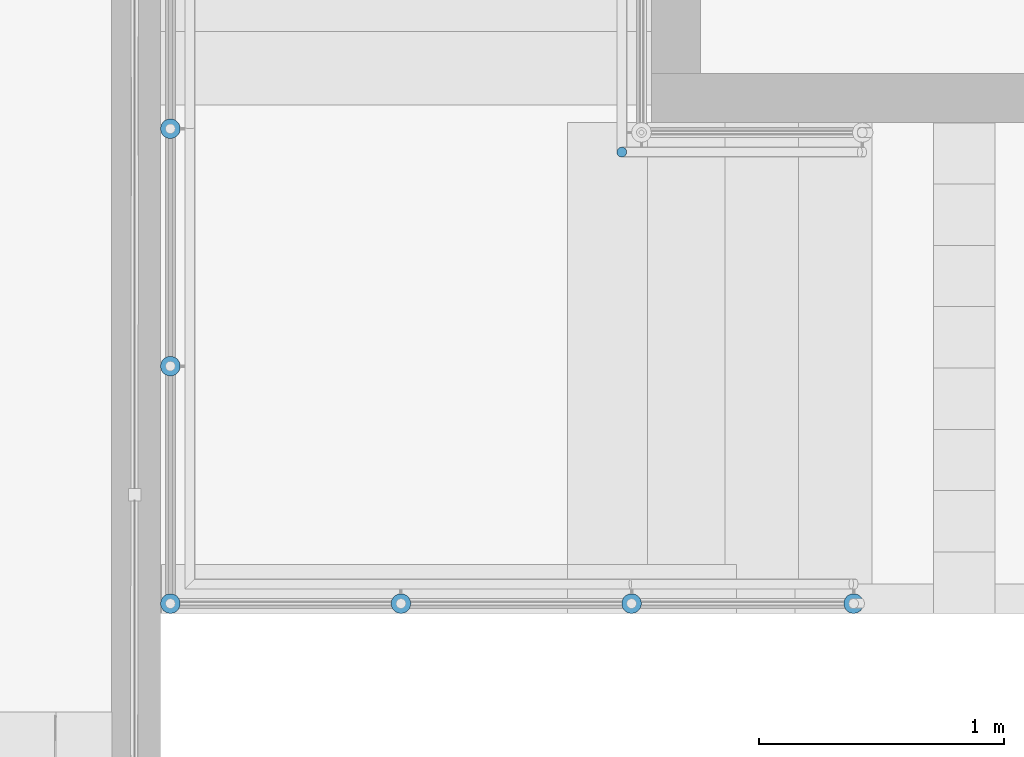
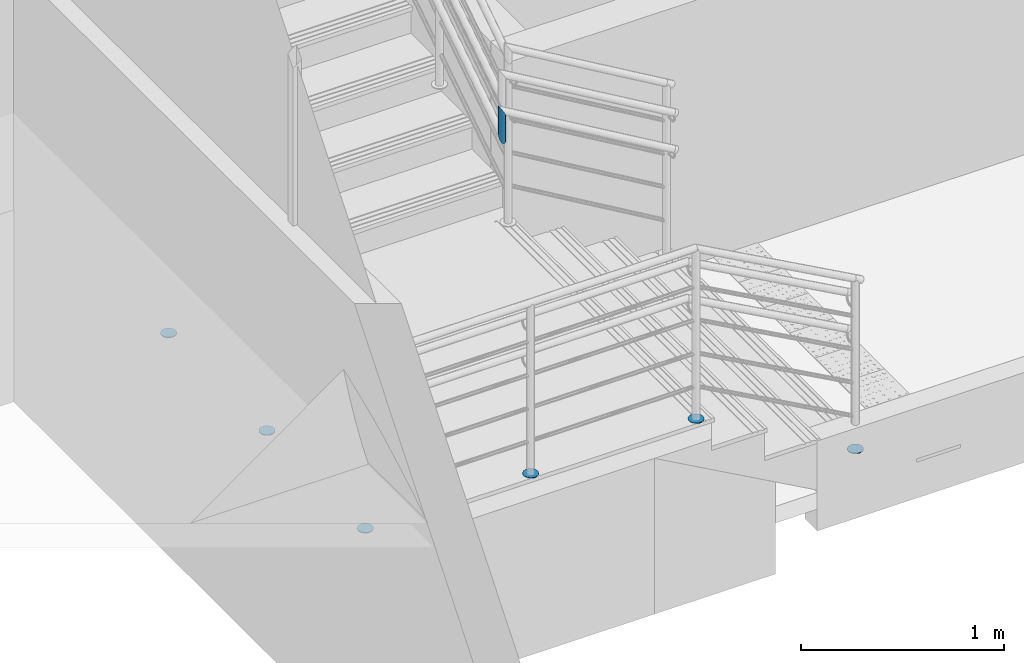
# One storey, part 123 of 237: 7 building element parts, 2 elements without a shape of their own.
"""IFC2X3 building model written with IfcOpenShell, lengths in millimetres."""

from ifc_helpers import new_model, entity, si_unit, converted_unit, derived_unit, money_unit, direction, frame, origin_with_axes, place, context, subcontext, project, spatial, faceted_brep, material, type_object, element, aggregate, save


model = new_model("IFC2X3")

# Units and contexts
model_context = context("Model", 3, precision=0.01, world=origin_with_axes(), true_north=direction((0.0, 1.0)))
body_context = subcontext(model_context, "Body", "Model", "MODEL_VIEW")
ifc_project = project(units=[si_unit("LENGTHUNIT", "METRE", prefix="MILLI"), si_unit("AREAUNIT", "SQUARE_METRE"), si_unit("VOLUMEUNIT", "CUBIC_METRE"), converted_unit("PLANEANGLEUNIT", "DEGREE", entity("IfcPlaneAngleMeasure", 0.0174532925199), si_unit("PLANEANGLEUNIT", "RADIAN"), dimensions=[0, 0, 0, 0, 0, 0, 0]), money_unit("USD"), converted_unit("TIMEUNIT", "Year", entity("IfcTimeMeasure", 31556926.0), si_unit("TIMEUNIT", "SECOND"), dimensions=[0, 0, 1, 0, 0, 0, 0]), si_unit("MASSUNIT", "GRAM", prefix="KILO"), si_unit("THERMODYNAMICTEMPERATUREUNIT", "DEGREE_CELSIUS"), si_unit("LUMINOUSINTENSITYUNIT", "LUMEN"), si_unit("ENERGYUNIT", "JOULE", prefix="MEGA"), derived_unit("THERMALCONDUCTANCEUNIT", [(si_unit("POWERUNIT", "WATT"), 1), (si_unit("LENGTHUNIT", "METRE"), -1), (si_unit("THERMODYNAMICTEMPERATUREUNIT", "KELVIN"), -1)]), derived_unit("SPECIFICHEATCAPACITYUNIT", [(si_unit("ENERGYUNIT", "JOULE"), 1), (si_unit("MASSUNIT", "GRAM", prefix="KILO"), -1), (si_unit("THERMODYNAMICTEMPERATUREUNIT", "KELVIN"), -1)]), derived_unit("MASSDENSITYUNIT", [(si_unit("MASSUNIT", "GRAM", prefix="KILO"), 1), (si_unit("VOLUMEUNIT", "CUBIC_METRE"), -1)])], contexts=[model_context])

# Site, building, storey
site_placement = place(None, origin_with_axes())
site = spatial("IfcSite", under=ifc_project, at=site_placement, Name="Local", CompositionType="ELEMENT")
building_placement = place(site_placement, origin_with_axes())
building = spatial("IfcBuilding", under=site, at=building_placement, Name="Construção", CompositionType="ELEMENT")
storey_placement = place(building_placement, origin_with_axes())
storey = spatial("IfcBuildingStorey", under=building, at=storey_placement, Name="Pavimento Térreo", CompositionType="ELEMENT", Elevation=0.0)

# Railing, building element parts
railing_type = type_object("IfcRailingType", Name="Tipo de Guarda-Corpo", PredefinedType="NOTDEFINED")
railing_1_placement = place(storey_placement, frame((77071.0413397, 23732.4143775, -4865.39060156), z_axis=(0.0, 0.0, 1.0), x_axis=(1.0, 0.0, 0.0)))
railing_1 = element("IfcRailing", 1, at=railing_1_placement, inside=storey, type_object=railing_type, Name="Guarda-Corpo - 001", PredefinedType="NOTDEFINED")
ifc_material_1 = material(Name="Alumínio")
building_element_part_1_placement = place(railing_1_placement, origin_with_axes())
building_element_part_1 = element("IfcBuildingElementPart", 2, at=building_element_part_1_placement, material=ifc_material_1, Name="Alumínio", context=body_context, shape_type="Brep", body=[
    faceted_brep([(1737.91815812, -1424.63306065, 520.0), (1744.86408523, -1424.02537077, 520.0), (1744.86408523, -1424.02537077, 525.0), (1737.91815812, -1424.63306065, 525.0), (1730.97223102, -1424.02537077, 520.0), (1724.23735239, -1422.22076548, 520.0), (1717.91815812, -1419.2740768, 520.0), (1712.20665374, -1415.27483837, 520.0), (1707.2763804, -1410.34456503, 520.0), (1703.27714197, -1404.63306065, 520.0), (1700.33045329, -1398.31386638, 520.0), (1698.525848, -1391.57898775, 520.0), (1697.91815812, -1384.63306065, 520.0), (1698.525848, -1377.68713354, 520.0), (1700.33045329, -1370.95225491, 520.0), (1703.27714197, -1364.63306065, 520.0), (1707.2763804, -1358.92155626, 520.0), (1712.20665374, -1353.99128292, 520.0), (1717.91815812, -1349.99204449, 520.0), (1724.23735239, -1347.04535581, 520.0), (1730.97223102, -1345.24075053, 520.0), (1737.91815812, -1344.63306065, 520.0), (1744.86408523, -1345.24075053, 520.0), (1751.59896386, -1347.04535581, 520.0), (1757.91815812, -1349.99204449, 520.0), (1763.62966251, -1353.99128292, 520.0), (1768.55993585, -1358.92155626, 520.0), (1772.55917428, -1364.63306065, 520.0), (1775.50586296, -1370.95225491, 520.0), (1777.31046825, -1377.68713354, 520.0), (1777.91815812, -1384.63306065, 520.0), (1777.31046825, -1391.57898775, 520.0), (1775.50586296, -1398.31386638, 520.0), (1772.55917428, -1404.63306065, 520.0), (1768.55993585, -1410.34456503, 520.0), (1763.62966251, -1415.27483837, 520.0), (1757.91815812, -1419.2740768, 520.0), (1751.59896386, -1422.22076548, 520.0), (1751.59896386, -1422.22076548, 525.0), (1757.91815812, -1419.2740768, 525.0), (1763.62966251, -1415.27483837, 525.0), (1768.55993585, -1410.34456503, 525.0), (1772.55917428, -1404.63306065, 525.0), (1775.50586296, -1398.31386638, 525.0), (1777.31046825, -1391.57898775, 525.0), (1777.91815812, -1384.63306065, 525.0), (1777.31046825, -1377.68713354, 525.0), (1775.50586296, -1370.95225491, 525.0), (1772.55917428, -1364.63306065, 525.0), (1768.55993585, -1358.92155626, 525.0), (1763.62966251, -1353.99128292, 525.0), (1757.91815812, -1349.99204449, 525.0), (1751.59896386, -1347.04535581, 525.0), (1744.86408523, -1345.24075053, 525.0), (1737.91815812, -1344.63306065, 525.0), (1730.97223102, -1345.24075053, 525.0), (1724.23735239, -1347.04535581, 525.0), (1717.91815812, -1349.99204449, 525.0), (1712.20665374, -1353.99128292, 525.0), (1707.2763804, -1358.92155626, 525.0), (1703.27714197, -1364.63306065, 525.0), (1700.33045329, -1370.95225491, 525.0), (1698.525848, -1377.68713354, 525.0), (1697.91815812, -1384.63306065, 525.0), (1698.525848, -1391.57898775, 525.0), (1700.33045329, -1398.31386638, 525.0), (1703.27714197, -1404.63306065, 525.0), (1707.2763804, -1410.34456503, 525.0), (1712.20665374, -1415.27483837, 525.0), (1717.91815812, -1419.2740768, 525.0), (1724.23735239, -1422.22076548, 525.0), (1730.97223102, -1424.02537077, 525.0)], [[[0, 1, 2, 3]], [[0, 4, 5, 6, 7, 8, 9, 10, 11, 12, 13, 14, 15, 16, 17, 18, 19, 20, 21, 22, 23, 24, 25, 26, 27, 28, 29, 30, 31, 32, 33, 34, 35, 36, 37, 1]], [[1, 37, 38, 2]], [[3, 2, 38, 39, 40, 41, 42, 43, 44, 45, 46, 47, 48, 49, 50, 51, 52, 53, 54, 55, 56, 57, 58, 59, 60, 61, 62, 63, 64, 65, 66, 67, 68, 69, 70, 71]], [[4, 0, 3, 71]], [[5, 4, 71, 70]], [[6, 5, 70, 69]], [[7, 6, 69, 68]], [[8, 7, 68, 67]], [[9, 8, 67, 66]], [[10, 9, 66, 65]], [[11, 10, 65, 64]], [[12, 11, 64, 63]], [[13, 12, 63, 62]], [[14, 13, 62, 61]], [[15, 14, 61, 60]], [[16, 15, 60, 59]], [[17, 16, 59, 58]], [[18, 17, 58, 57]], [[19, 18, 57, 56]], [[20, 19, 56, 55]], [[21, 20, 55, 54]], [[22, 21, 54, 53]], [[23, 22, 53, 52]], [[24, 23, 52, 51]], [[25, 24, 51, 50]], [[26, 25, 50, 49]], [[27, 26, 49, 48]], [[28, 27, 48, 47]], [[29, 28, 47, 46]], [[30, 29, 46, 45]], [[31, 30, 45, 44]], [[32, 31, 44, 43]], [[33, 32, 43, 42]], [[34, 33, 42, 41]], [[35, 34, 41, 40]], [[36, 35, 40, 39]], [[37, 36, 39, 38]]]),
])
building_element_part_2_placement = place(railing_1_placement, origin_with_axes())
building_element_part_2 = element("IfcBuildingElementPart", 3, at=building_element_part_2_placement, material=ifc_material_1, Name="Alumínio", context=body_context, shape_type="Brep", body=[
    faceted_brep([(1737.91815598, -3359.99526689, 520.0), (1744.86408308, -3359.38757702, 520.0), (1744.86408308, -3359.38757702, 525.0), (1737.91815598, -3359.99526689, 525.0), (1730.97222887, -3359.387577, 520.0), (1724.23735024, -3357.58297171, 520.0), (1717.91815598, -3354.63628302, 520.0), (1712.2066516, -3350.63704459, 520.0), (1707.27637827, -3345.70677124, 520.0), (1703.27713985, -3339.99526685, 520.0), (1700.33045117, -3333.67607258, 520.0), (1698.52584589, -3326.94119395, 520.0), (1697.91815602, -3319.99526685, 520.0), (1698.52584591, -3313.04933974, 520.0), (1700.3304512, -3306.31446112, 520.0), (1703.27713989, -3299.99526685, 520.0), (1707.27637832, -3294.28376247, 520.0), (1712.20665166, -3289.35348914, 520.0), (1717.91815606, -3285.35425072, 520.0), (1724.23735033, -3282.40756204, 520.0), (1730.97222895, -3280.60295676, 520.0), (1737.91815606, -3279.99526689, 520.0), (1744.86408317, -3280.60295678, 520.0), (1751.59896179, -3282.40756207, 520.0), (1757.91815606, -3285.35425076, 520.0), (1763.62966044, -3289.35348919, 520.0), (1768.55993377, -3294.28376254, 520.0), (1772.55917219, -3299.99526693, 520.0), (1775.50586087, -3306.3144612, 520.0), (1777.31046615, -3313.04933983, 520.0), (1777.91815602, -3319.99526693, 520.0), (1777.31046613, -3326.94119404, 520.0), (1775.50586084, -3333.67607266, 520.0), (1772.55917215, -3339.99526693, 520.0), (1768.55993372, -3345.70677131, 520.0), (1763.62966037, -3350.63704464, 520.0), (1757.91815598, -3354.63628306, 520.0), (1751.59896171, -3357.58297174, 520.0), (1751.59896171, -3357.58297174, 525.0), (1757.91815598, -3354.63628306, 525.0), (1763.62966037, -3350.63704464, 525.0), (1768.55993372, -3345.70677131, 525.0), (1772.55917215, -3339.99526693, 525.0), (1775.50586084, -3333.67607266, 525.0), (1777.31046613, -3326.94119404, 525.0), (1777.91815602, -3319.99526693, 525.0), (1777.31046615, -3313.04933983, 525.0), (1775.50586087, -3306.3144612, 525.0), (1772.55917219, -3299.99526693, 525.0), (1768.55993377, -3294.28376254, 525.0), (1763.62966044, -3289.35348919, 525.0), (1757.91815606, -3285.35425076, 525.0), (1751.59896179, -3282.40756207, 525.0), (1744.86408317, -3280.60295678, 525.0), (1737.91815606, -3279.99526689, 525.0), (1730.97222895, -3280.60295676, 525.0), (1724.23735033, -3282.40756204, 525.0), (1717.91815606, -3285.35425072, 525.0), (1712.20665166, -3289.35348914, 525.0), (1707.27637832, -3294.28376247, 525.0), (1703.27713989, -3299.99526685, 525.0), (1700.3304512, -3306.31446112, 525.0), (1698.52584591, -3313.04933974, 525.0), (1697.91815602, -3319.99526685, 525.0), (1698.52584589, -3326.94119395, 525.0), (1700.33045117, -3333.67607258, 525.0), (1703.27713985, -3339.99526685, 525.0), (1707.27637827, -3345.70677124, 525.0), (1712.2066516, -3350.63704459, 525.0), (1717.91815598, -3354.63628302, 525.0), (1724.23735024, -3357.58297171, 525.0), (1730.97222887, -3359.387577, 525.0)], [[[0, 1, 2, 3]], [[0, 4, 5, 6, 7, 8, 9, 10, 11, 12, 13, 14, 15, 16, 17, 18, 19, 20, 21, 22, 23, 24, 25, 26, 27, 28, 29, 30, 31, 32, 33, 34, 35, 36, 37, 1]], [[1, 37, 38, 2]], [[3, 2, 38, 39, 40, 41, 42, 43, 44, 45, 46, 47, 48, 49, 50, 51, 52, 53, 54, 55, 56, 57, 58, 59, 60, 61, 62, 63, 64, 65, 66, 67, 68, 69, 70, 71]], [[4, 0, 3, 71]], [[5, 4, 71, 70]], [[6, 5, 70, 69]], [[7, 6, 69, 68]], [[8, 7, 68, 67]], [[9, 8, 67, 66]], [[10, 9, 66, 65]], [[11, 10, 65, 64]], [[12, 11, 64, 63]], [[13, 12, 63, 62]], [[14, 13, 62, 61]], [[15, 14, 61, 60]], [[16, 15, 60, 59]], [[17, 16, 59, 58]], [[18, 17, 58, 57]], [[19, 18, 57, 56]], [[20, 19, 56, 55]], [[21, 20, 55, 54]], [[22, 21, 54, 53]], [[23, 22, 53, 52]], [[24, 23, 52, 51]], [[25, 24, 51, 50]], [[26, 25, 50, 49]], [[27, 26, 49, 48]], [[28, 27, 48, 47]], [[29, 28, 47, 46]], [[30, 29, 46, 45]], [[31, 30, 45, 44]], [[32, 31, 44, 43]], [[33, 32, 43, 42]], [[34, 33, 42, 41]], [[35, 34, 41, 40]], [[36, 35, 40, 39]], [[37, 36, 39, 38]]]),
])
building_element_part_3_placement = place(railing_1_placement, origin_with_axes())
building_element_part_3 = element("IfcBuildingElementPart", 4, at=building_element_part_3_placement, material=ifc_material_1, Name="Alumínio", context=body_context, shape_type="Brep", body=[
    faceted_brep([(3657.45318149, -3319.99526689, 520.0), (3656.84549161, -3313.04933978, 520.0), (3656.84549161, -3313.04933978, 525.0), (3657.45318149, -3319.99526689, 525.0), (3656.84549161, -3326.941194, 520.0), (3655.04088632, -3333.67607262, 520.0), (3652.09419764, -3339.99526689, 520.0), (3648.09495921, -3345.70677128, 520.0), (3643.16468588, -3350.63704462, 520.0), (3637.45318149, -3354.63628304, 520.0), (3631.13398722, -3357.58297172, 520.0), (3624.3991086, -3359.38757701, 520.0), (3617.45318149, -3359.99526689, 520.0), (3610.50725438, -3359.38757701, 520.0), (3603.77237576, -3357.58297172, 520.0), (3597.45318149, -3354.63628304, 520.0), (3591.7416771, -3350.63704462, 520.0), (3586.81140377, -3345.70677128, 520.0), (3582.81216534, -3339.99526689, 520.0), (3579.86547666, -3333.67607262, 520.0), (3578.06087137, -3326.941194, 520.0), (3577.45318149, -3319.99526689, 520.0), (3578.06087137, -3313.04933978, 520.0), (3579.86547666, -3306.31446116, 520.0), (3582.81216534, -3299.99526689, 520.0), (3586.81140377, -3294.2837625, 520.0), (3591.7416771, -3289.35348917, 520.0), (3597.45318149, -3285.35425074, 520.0), (3603.77237576, -3282.40756206, 520.0), (3610.50725438, -3280.60295677, 520.0), (3617.45318149, -3279.99526689, 520.0), (3624.3991086, -3280.60295677, 520.0), (3631.13398722, -3282.40756206, 520.0), (3637.45318149, -3285.35425074, 520.0), (3643.16468588, -3289.35348917, 520.0), (3648.09495921, -3294.2837625, 520.0), (3652.09419764, -3299.99526689, 520.0), (3655.04088632, -3306.31446116, 520.0), (3655.04088632, -3306.31446116, 525.0), (3652.09419764, -3299.99526689, 525.0), (3648.09495921, -3294.2837625, 525.0), (3643.16468588, -3289.35348917, 525.0), (3637.45318149, -3285.35425074, 525.0), (3631.13398722, -3282.40756206, 525.0), (3624.3991086, -3280.60295677, 525.0), (3617.45318149, -3279.99526689, 525.0), (3610.50725438, -3280.60295677, 525.0), (3603.77237576, -3282.40756206, 525.0), (3597.45318149, -3285.35425074, 525.0), (3591.7416771, -3289.35348917, 525.0), (3586.81140377, -3294.2837625, 525.0), (3582.81216534, -3299.99526689, 525.0), (3579.86547666, -3306.31446116, 525.0), (3578.06087137, -3313.04933978, 525.0), (3577.45318149, -3319.99526689, 525.0), (3578.06087137, -3326.941194, 525.0), (3579.86547666, -3333.67607262, 525.0), (3582.81216534, -3339.99526689, 525.0), (3586.81140377, -3345.70677128, 525.0), (3591.7416771, -3350.63704462, 525.0), (3597.45318149, -3354.63628304, 525.0), (3603.77237576, -3357.58297172, 525.0), (3610.50725438, -3359.38757701, 525.0), (3617.45318149, -3359.99526689, 525.0), (3624.3991086, -3359.38757701, 525.0), (3631.13398722, -3357.58297172, 525.0), (3637.45318149, -3354.63628304, 525.0), (3643.16468588, -3350.63704462, 525.0), (3648.09495921, -3345.70677128, 525.0), (3652.09419764, -3339.99526689, 525.0), (3655.04088632, -3333.67607262, 525.0), (3656.84549161, -3326.941194, 525.0)], [[[0, 1, 2, 3]], [[0, 4, 5, 6, 7, 8, 9, 10, 11, 12, 13, 14, 15, 16, 17, 18, 19, 20, 21, 22, 23, 24, 25, 26, 27, 28, 29, 30, 31, 32, 33, 34, 35, 36, 37, 1]], [[1, 37, 38, 2]], [[3, 2, 38, 39, 40, 41, 42, 43, 44, 45, 46, 47, 48, 49, 50, 51, 52, 53, 54, 55, 56, 57, 58, 59, 60, 61, 62, 63, 64, 65, 66, 67, 68, 69, 70, 71]], [[4, 0, 3, 71]], [[5, 4, 71, 70]], [[6, 5, 70, 69]], [[7, 6, 69, 68]], [[8, 7, 68, 67]], [[9, 8, 67, 66]], [[10, 9, 66, 65]], [[11, 10, 65, 64]], [[12, 11, 64, 63]], [[13, 12, 63, 62]], [[14, 13, 62, 61]], [[15, 14, 61, 60]], [[16, 15, 60, 59]], [[17, 16, 59, 58]], [[18, 17, 58, 57]], [[19, 18, 57, 56]], [[20, 19, 56, 55]], [[21, 20, 55, 54]], [[22, 21, 54, 53]], [[23, 22, 53, 52]], [[24, 23, 52, 51]], [[25, 24, 51, 50]], [[26, 25, 50, 49]], [[27, 26, 49, 48]], [[28, 27, 48, 47]], [[29, 28, 47, 46]], [[30, 29, 46, 45]], [[31, 30, 45, 44]], [[32, 31, 44, 43]], [[33, 32, 43, 42]], [[34, 33, 42, 41]], [[35, 34, 41, 40]], [[36, 35, 40, 39]], [[37, 36, 39, 38]]]),
])
building_element_part_4_placement = place(railing_1_placement, origin_with_axes())
building_element_part_4 = element("IfcBuildingElementPart", 5, at=building_element_part_4_placement, material=ifc_material_1, Name="Alumínio", context=body_context, shape_type="Brep", body=[
    faceted_brep([(4562.4930304, -3319.99526689, 22.009653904), (4561.88534052, -3313.04933978, 22.009653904), (4561.88534052, -3313.04933978, 27.009653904), (4562.4930304, -3319.99526689, 27.009653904), (4561.88534052, -3326.941194, 22.009653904), (4560.08073523, -3333.67607262, 22.009653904), (4557.13404655, -3339.99526689, 22.009653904), (4553.13480813, -3345.70677128, 22.009653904), (4548.20453479, -3350.63704462, 22.009653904), (4542.4930304, -3354.63628304, 22.009653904), (4536.17383613, -3357.58297172, 22.009653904), (4529.43895751, -3359.38757701, 22.009653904), (4522.4930304, -3359.99526689, 22.009653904), (4515.54710329, -3359.38757701, 22.009653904), (4508.81222467, -3357.58297172, 22.009653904), (4502.4930304, -3354.63628304, 22.009653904), (4496.78152601, -3350.63704462, 22.009653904), (4491.85125268, -3345.70677128, 22.009653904), (4487.85201425, -3339.99526689, 22.009653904), (4484.90532557, -3333.67607262, 22.009653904), (4483.10072028, -3326.941194, 22.009653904), (4482.4930304, -3319.99526689, 22.009653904), (4483.10072028, -3313.04933978, 22.009653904), (4484.90532557, -3306.31446116, 22.009653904), (4487.85201425, -3299.99526689, 22.009653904), (4491.85125268, -3294.2837625, 22.009653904), (4496.78152601, -3289.35348917, 22.009653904), (4502.4930304, -3285.35425074, 22.009653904), (4508.81222467, -3282.40756206, 22.009653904), (4515.54710329, -3280.60295677, 22.009653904), (4522.4930304, -3279.99526689, 22.009653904), (4529.43895751, -3280.60295677, 22.009653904), (4536.17383613, -3282.40756206, 22.009653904), (4542.4930304, -3285.35425074, 22.009653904), (4548.20453479, -3289.35348917, 22.009653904), (4553.13480813, -3294.2837625, 22.009653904), (4557.13404655, -3299.99526689, 22.009653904), (4560.08073523, -3306.31446116, 22.009653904), (4560.08073523, -3306.31446116, 27.009653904), (4557.13404655, -3299.99526689, 27.009653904), (4553.13480813, -3294.2837625, 27.009653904), (4548.20453479, -3289.35348917, 27.009653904), (4542.4930304, -3285.35425074, 27.009653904), (4536.17383613, -3282.40756206, 27.009653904), (4529.43895751, -3280.60295677, 27.009653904), (4522.4930304, -3279.99526689, 27.009653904), (4515.54710329, -3280.60295677, 27.009653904), (4508.81222467, -3282.40756206, 27.009653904), (4502.4930304, -3285.35425074, 27.009653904), (4496.78152601, -3289.35348917, 27.009653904), (4491.85125268, -3294.2837625, 27.009653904), (4487.85201425, -3299.99526689, 27.009653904), (4484.90532557, -3306.31446116, 27.009653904), (4483.10072028, -3313.04933978, 27.009653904), (4482.4930304, -3319.99526689, 27.009653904), (4483.10072028, -3326.941194, 27.009653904), (4484.90532557, -3333.67607262, 27.009653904), (4487.85201425, -3339.99526689, 27.009653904), (4491.85125268, -3345.70677128, 27.009653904), (4496.78152601, -3350.63704462, 27.009653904), (4502.4930304, -3354.63628304, 27.009653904), (4508.81222467, -3357.58297172, 27.009653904), (4515.54710329, -3359.38757701, 27.009653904), (4522.4930304, -3359.99526689, 27.009653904), (4529.43895751, -3359.38757701, 27.009653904), (4536.17383613, -3357.58297172, 27.009653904), (4542.4930304, -3354.63628304, 27.009653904), (4548.20453479, -3350.63704462, 27.009653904), (4553.13480813, -3345.70677128, 27.009653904), (4557.13404655, -3339.99526689, 27.009653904), (4560.08073523, -3333.67607262, 27.009653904), (4561.88534052, -3326.941194, 27.009653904)], [[[0, 1, 2, 3]], [[0, 4, 5, 6, 7, 8, 9, 10, 11, 12, 13, 14, 15, 16, 17, 18, 19, 20, 21, 22, 23, 24, 25, 26, 27, 28, 29, 30, 31, 32, 33, 34, 35, 36, 37, 1]], [[1, 37, 38, 2]], [[3, 2, 38, 39, 40, 41, 42, 43, 44, 45, 46, 47, 48, 49, 50, 51, 52, 53, 54, 55, 56, 57, 58, 59, 60, 61, 62, 63, 64, 65, 66, 67, 68, 69, 70, 71]], [[4, 0, 3, 71]], [[5, 4, 71, 70]], [[6, 5, 70, 69]], [[7, 6, 69, 68]], [[8, 7, 68, 67]], [[9, 8, 67, 66]], [[10, 9, 66, 65]], [[11, 10, 65, 64]], [[12, 11, 64, 63]], [[13, 12, 63, 62]], [[14, 13, 62, 61]], [[15, 14, 61, 60]], [[16, 15, 60, 59]], [[17, 16, 59, 58]], [[18, 17, 58, 57]], [[19, 18, 57, 56]], [[20, 19, 56, 55]], [[21, 20, 55, 54]], [[22, 21, 54, 53]], [[23, 22, 53, 52]], [[24, 23, 52, 51]], [[25, 24, 51, 50]], [[26, 25, 50, 49]], [[27, 26, 49, 48]], [[28, 27, 48, 47]], [[29, 28, 47, 46]], [[30, 29, 46, 45]], [[31, 30, 45, 44]], [[32, 31, 44, 43]], [[33, 32, 43, 42]], [[34, 33, 42, 41]], [[35, 34, 41, 40]], [[36, 35, 40, 39]], [[37, 36, 39, 38]]]),
])
building_element_part_5_placement = place(railing_1_placement, origin_with_axes())
building_element_part_5 = element("IfcBuildingElementPart", 6, at=building_element_part_5_placement, material=ifc_material_1, Name="Alumínio", context=body_context, shape_type="Brep", body=[
    faceted_brep([(1737.91815703, -2392.31416378, 520.0), (1744.86408414, -2391.70647391, 520.0), (1744.86408414, -2391.70647391, 525.0), (1737.91815703, -2392.31416378, 525.0), (1730.97222992, -2391.70647389, 520.0), (1724.2373513, -2389.9018686, 520.0), (1717.91815703, -2386.95517991, 520.0), (1712.20665265, -2382.95594148, 520.0), (1707.27637932, -2378.02566813, 520.0), (1703.2771409, -2372.31416374, 520.0), (1700.33045223, -2365.99496947, 520.0), (1698.52584694, -2359.26009084, 520.0), (1697.91815707, -2352.31416374, 520.0), (1698.52584696, -2345.36823663, 520.0), (1700.33045226, -2338.63335801, 520.0), (1703.27714094, -2332.31416374, 520.0), (1707.27637937, -2326.60265936, 520.0), (1712.20665272, -2321.67238603, 520.0), (1717.91815711, -2317.67314761, 520.0), (1724.23735138, -2314.72645893, 520.0), (1730.97223001, -2312.92185365, 520.0), (1737.91815712, -2312.31416378, 520.0), (1744.86408422, -2312.92185367, 520.0), (1751.59896285, -2314.72645896, 520.0), (1757.91815711, -2317.67314765, 520.0), (1763.62966149, -2321.67238608, 520.0), (1768.55993482, -2326.60265943, 520.0), (1772.55917324, -2332.31416382, 520.0), (1775.50586192, -2338.63335809, 520.0), (1777.3104672, -2345.36823672, 520.0), (1777.91815707, -2352.31416382, 520.0), (1777.31046718, -2359.26009093, 520.0), (1775.50586189, -2365.99496955, 520.0), (1772.5591732, -2372.31416382, 520.0), (1768.55993477, -2378.0256682, 520.0), (1763.62966143, -2382.95594153, 520.0), (1757.91815703, -2386.95517995, 520.0), (1751.59896276, -2389.90186863, 520.0), (1751.59896276, -2389.90186863, 525.0), (1757.91815703, -2386.95517995, 525.0), (1763.62966143, -2382.95594153, 525.0), (1768.55993477, -2378.0256682, 525.0), (1772.5591732, -2372.31416382, 525.0), (1775.50586189, -2365.99496955, 525.0), (1777.31046718, -2359.26009093, 525.0), (1777.91815707, -2352.31416382, 525.0), (1777.3104672, -2345.36823672, 525.0), (1775.50586192, -2338.63335809, 525.0), (1772.55917324, -2332.31416382, 525.0), (1768.55993482, -2326.60265943, 525.0), (1763.62966149, -2321.67238608, 525.0), (1757.91815711, -2317.67314765, 525.0), (1751.59896285, -2314.72645896, 525.0), (1744.86408422, -2312.92185367, 525.0), (1737.91815712, -2312.31416378, 525.0), (1730.97223001, -2312.92185365, 525.0), (1724.23735138, -2314.72645893, 525.0), (1717.91815711, -2317.67314761, 525.0), (1712.20665272, -2321.67238603, 525.0), (1707.27637937, -2326.60265936, 525.0), (1703.27714094, -2332.31416374, 525.0), (1700.33045226, -2338.63335801, 525.0), (1698.52584696, -2345.36823663, 525.0), (1697.91815707, -2352.31416374, 525.0), (1698.52584694, -2359.26009084, 525.0), (1700.33045223, -2365.99496947, 525.0), (1703.2771409, -2372.31416374, 525.0), (1707.27637932, -2378.02566813, 525.0), (1712.20665265, -2382.95594148, 525.0), (1717.91815703, -2386.95517991, 525.0), (1724.2373513, -2389.9018686, 525.0), (1730.97222992, -2391.70647389, 525.0)], [[[0, 1, 2, 3]], [[0, 4, 5, 6, 7, 8, 9, 10, 11, 12, 13, 14, 15, 16, 17, 18, 19, 20, 21, 22, 23, 24, 25, 26, 27, 28, 29, 30, 31, 32, 33, 34, 35, 36, 37, 1]], [[1, 37, 38, 2]], [[3, 2, 38, 39, 40, 41, 42, 43, 44, 45, 46, 47, 48, 49, 50, 51, 52, 53, 54, 55, 56, 57, 58, 59, 60, 61, 62, 63, 64, 65, 66, 67, 68, 69, 70, 71]], [[4, 0, 3, 71]], [[5, 4, 71, 70]], [[6, 5, 70, 69]], [[7, 6, 69, 68]], [[8, 7, 68, 67]], [[9, 8, 67, 66]], [[10, 9, 66, 65]], [[11, 10, 65, 64]], [[12, 11, 64, 63]], [[13, 12, 63, 62]], [[14, 13, 62, 61]], [[15, 14, 61, 60]], [[16, 15, 60, 59]], [[17, 16, 59, 58]], [[18, 17, 58, 57]], [[19, 18, 57, 56]], [[20, 19, 56, 55]], [[21, 20, 55, 54]], [[22, 21, 54, 53]], [[23, 22, 53, 52]], [[24, 23, 52, 51]], [[25, 24, 51, 50]], [[26, 25, 50, 49]], [[27, 26, 49, 48]], [[28, 27, 48, 47]], [[29, 28, 47, 46]], [[30, 29, 46, 45]], [[31, 30, 45, 44]], [[32, 31, 44, 43]], [[33, 32, 43, 42]], [[34, 33, 42, 41]], [[35, 34, 41, 40]], [[36, 35, 40, 39]], [[37, 36, 39, 38]]]),
])
building_element_part_6_placement = place(railing_1_placement, origin_with_axes())
building_element_part_6 = element("IfcBuildingElementPart", 7, at=building_element_part_6_placement, material=ifc_material_1, Name="Alumínio", context=body_context, shape_type="Brep", body=[
    faceted_brep([(2717.68566875, -3319.99526689, 520.0), (2717.07797887, -3313.04933978, 520.0), (2717.07797887, -3313.04933978, 525.0), (2717.68566875, -3319.99526689, 525.0), (2717.07797887, -3326.941194, 520.0), (2715.27337359, -3333.67607262, 520.0), (2712.32668491, -3339.99526689, 520.0), (2708.32744648, -3345.70677128, 520.0), (2703.39717314, -3350.63704462, 520.0), (2697.68566875, -3354.63628304, 520.0), (2691.36647449, -3357.58297172, 520.0), (2684.63159586, -3359.38757701, 520.0), (2677.68566875, -3359.99526689, 520.0), (2670.73974165, -3359.38757701, 520.0), (2664.00486302, -3357.58297172, 520.0), (2657.68566875, -3354.63628304, 520.0), (2651.97416437, -3350.63704462, 520.0), (2647.04389103, -3345.70677128, 520.0), (2643.0446526, -3339.99526689, 520.0), (2640.09796392, -3333.67607262, 520.0), (2638.29335863, -3326.941194, 520.0), (2637.68566875, -3319.99526689, 520.0), (2638.29335863, -3313.04933978, 520.0), (2640.09796392, -3306.31446116, 520.0), (2643.0446526, -3299.99526689, 520.0), (2647.04389103, -3294.2837625, 520.0), (2651.97416437, -3289.35348917, 520.0), (2657.68566875, -3285.35425074, 520.0), (2664.00486302, -3282.40756206, 520.0), (2670.73974165, -3280.60295677, 520.0), (2677.68566875, -3279.99526689, 520.0), (2684.63159586, -3280.60295677, 520.0), (2691.36647449, -3282.40756206, 520.0), (2697.68566875, -3285.35425074, 520.0), (2703.39717314, -3289.35348917, 520.0), (2708.32744648, -3294.2837625, 520.0), (2712.32668491, -3299.99526689, 520.0), (2715.27337359, -3306.31446116, 520.0), (2715.27337359, -3306.31446116, 525.0), (2712.32668491, -3299.99526689, 525.0), (2708.32744648, -3294.2837625, 525.0), (2703.39717314, -3289.35348917, 525.0), (2697.68566875, -3285.35425074, 525.0), (2691.36647449, -3282.40756206, 525.0), (2684.63159586, -3280.60295677, 525.0), (2677.68566875, -3279.99526689, 525.0), (2670.73974165, -3280.60295677, 525.0), (2664.00486302, -3282.40756206, 525.0), (2657.68566875, -3285.35425074, 525.0), (2651.97416437, -3289.35348917, 525.0), (2647.04389103, -3294.2837625, 525.0), (2643.0446526, -3299.99526689, 525.0), (2640.09796392, -3306.31446116, 525.0), (2638.29335863, -3313.04933978, 525.0), (2637.68566875, -3319.99526689, 525.0), (2638.29335863, -3326.941194, 525.0), (2640.09796392, -3333.67607262, 525.0), (2643.0446526, -3339.99526689, 525.0), (2647.04389103, -3345.70677128, 525.0), (2651.97416437, -3350.63704462, 525.0), (2657.68566875, -3354.63628304, 525.0), (2664.00486302, -3357.58297172, 525.0), (2670.73974165, -3359.38757701, 525.0), (2677.68566875, -3359.99526689, 525.0), (2684.63159586, -3359.38757701, 525.0), (2691.36647449, -3357.58297172, 525.0), (2697.68566875, -3354.63628304, 525.0), (2703.39717314, -3350.63704462, 525.0), (2708.32744648, -3345.70677128, 525.0), (2712.32668491, -3339.99526689, 525.0), (2715.27337359, -3333.67607262, 525.0), (2717.07797887, -3326.941194, 525.0)], [[[0, 1, 2, 3]], [[0, 4, 5, 6, 7, 8, 9, 10, 11, 12, 13, 14, 15, 16, 17, 18, 19, 20, 21, 22, 23, 24, 25, 26, 27, 28, 29, 30, 31, 32, 33, 34, 35, 36, 37, 1]], [[1, 37, 38, 2]], [[3, 2, 38, 39, 40, 41, 42, 43, 44, 45, 46, 47, 48, 49, 50, 51, 52, 53, 54, 55, 56, 57, 58, 59, 60, 61, 62, 63, 64, 65, 66, 67, 68, 69, 70, 71]], [[4, 0, 3, 71]], [[5, 4, 71, 70]], [[6, 5, 70, 69]], [[7, 6, 69, 68]], [[8, 7, 68, 67]], [[9, 8, 67, 66]], [[10, 9, 66, 65]], [[11, 10, 65, 64]], [[12, 11, 64, 63]], [[13, 12, 63, 62]], [[14, 13, 62, 61]], [[15, 14, 61, 60]], [[16, 15, 60, 59]], [[17, 16, 59, 58]], [[18, 17, 58, 57]], [[19, 18, 57, 56]], [[20, 19, 56, 55]], [[21, 20, 55, 54]], [[22, 21, 54, 53]], [[23, 22, 53, 52]], [[24, 23, 52, 51]], [[25, 24, 51, 50]], [[26, 25, 50, 49]], [[27, 26, 49, 48]], [[28, 27, 48, 47]], [[29, 28, 47, 46]], [[30, 29, 46, 45]], [[31, 30, 45, 44]], [[32, 31, 44, 43]], [[33, 32, 43, 42]], [[34, 33, 42, 41]], [[35, 34, 41, 40]], [[36, 35, 40, 39]], [[37, 36, 39, 38]]]),
])
aggregate(railing_1, [building_element_part_1, building_element_part_2, building_element_part_3, building_element_part_4, building_element_part_5, building_element_part_6])

# Railing, building element part
railing_2_placement = place(storey_placement, frame((84562.8908804, 21657.2175927, -4868.39227091), z_axis=(0.0, 0.0, 1.0), x_axis=(1.0, 0.0, 0.0)))
railing_2 = element("IfcRailing", 8, at=railing_2_placement, inside=storey, type_object=railing_type, Name="Guarda-Corpo - 002", PredefinedType="NOTDEFINED")
ifc_material_2 = material(Name="Aço - Inoxidável")
building_element_part_7_placement = place(railing_2_placement, origin_with_axes())
building_element_part_7 = element("IfcBuildingElementPart", 9, at=building_element_part_7_placement, material=ifc_material_2, Name="Aço - Inoxidável", context=body_context, shape_type="Brep", body=[
    faceted_brep([(-3910.45830725, 614.898168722, 1161.91366874), (-3913.93126905, 615.202048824, 1162.476101), (-3913.93126905, 615.201402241, 1275.21413694), (-3910.45830725, 614.897537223, 1269.15014715), (-3917.40423436, 614.898244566, 1161.91380912), (-3907.09087316, 613.995837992, 1160.24360246), (-3903.93128454, 612.522474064, 1157.51664732), (-3901.07554391, 610.522844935, 1153.81566155), (-3898.61042149, 608.057708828, 1149.25309866), (-3896.61081879, 605.201968, 1143.96759045), (-3895.13749271, 602.042392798, 1138.11973462), (-3894.23520954, 598.674985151, 1131.887215), (-3893.93138467, 595.202061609, 1125.45940275), (-3894.23524969, 591.729144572, 1119.03160254), (-3895.1375718, 588.361756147, 1112.7991185), (-3896.61093441, 585.202212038, 1106.95132021), (-3898.61057013, 582.346512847, 1101.66588907), (-3901.07572105, 579.881427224, 1097.10341962), (-3903.93148481, 577.881855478, 1093.40254006), (-3907.09109046, 576.408553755, 1090.67570005), (-3910.45853499, 575.506287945, 1089.00575392), (-3913.9315003, 575.202473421, 1088.44344303), (-3917.40446209, 575.506341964, 1089.0058539), (-3920.77189619, 576.408661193, 1090.6758989), (-3923.9314848, 577.882015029, 1093.40283536), (-3926.78722544, 579.881636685, 1097.1038073), (-3929.25234786, 582.346768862, 1101.66636291), (-3931.25195056, 585.202509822, 1106.95187136), (-3932.72527663, 588.362089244, 1112.799735), (-3933.62755981, 591.729504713, 1119.03226911), (-3933.93138467, 595.202438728, 1125.46010074), (-3933.62751965, 598.675367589, 1131.88792283), (-3932.72519754, 602.042767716, 1138.12042853), (-3931.25183494, 605.202321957, 1143.96824557), (-3929.25219921, 608.058028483, 1149.25369029), (-3926.78704829, 610.523117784, 1153.81616654), (-3923.93128454, 612.522689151, 1157.51704541), (-3920.77167889, 613.995986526, 1160.24387737), (-3917.40423436, 614.897577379, 1281.27812673), (-3923.93148481, 577.880951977, 1292.67469965), (-3920.77189619, 576.407589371, 1287.15786526), (-3917.40446209, 575.505267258, 1281.27812673), (-3913.9315003, 575.201402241, 1275.21413694), (-3910.45853499, 575.505227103, 1269.15014715), (-3907.09109046, 576.40751028, 1263.27040862), (-3903.93148481, 577.880836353, 1257.75357423), (-3901.07572105, 579.880439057, 1252.7672702), (-3898.61057013, 582.345561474, 1248.46300286), (-3896.61093441, 585.201302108, 1244.97155519), (-3895.13757181, 588.360890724, 1242.39901307), (-3894.23524969, 591.728324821, 1240.82354188), (-3893.93138468, 595.201286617, 1240.29301152), (-3894.23520954, 598.674251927, 1240.82354188), (-3895.13749271, 602.041696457, 1242.39901307), (-3896.61081879, 605.201302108, 1244.97155519), (-3898.61042149, 608.057065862, 1248.46300286), (-3901.07554391, 610.522216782, 1252.7672702), (-3903.93128454, 612.521852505, 1257.75357423), (-3907.09087316, 613.995215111, 1263.27040862), (-3920.77167889, 613.995294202, 1287.15786526), (-3923.93128454, 612.521968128, 1292.67469965), (-3926.78704829, 610.522365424, 1297.66100368), (-3929.25219921, 608.057243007, 1301.96527102), (-3931.25183494, 605.201502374, 1305.45671868), (-3932.72519754, 602.041913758, 1308.02926081), (-3933.62751965, 598.674479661, 1309.604732), (-3933.93138467, 595.201517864, 1310.13526236), (-3933.62755981, 591.728552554, 1309.604732), (-3932.72527663, 588.361108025, 1308.02926081), (-3931.25195056, 585.201502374, 1305.45671868), (-3929.25234786, 582.34573862, 1301.96527102), (-3926.78722544, 579.8805877, 1297.66100368)], [[[0, 1, 2, 3]], [[4, 1, 0, 5, 6, 7, 8, 9, 10, 11, 12, 13, 14, 15, 16, 17, 18, 19, 20, 21, 22, 23, 24, 25, 26, 27, 28, 29, 30, 31, 32, 33, 34, 35, 36, 37]], [[1, 4, 38, 2]], [[39, 40, 41, 42, 43, 44, 45, 46, 47, 48, 49, 50, 51, 52, 53, 54, 55, 56, 57, 58, 3, 2, 38, 59, 60, 61, 62, 63, 64, 65, 66, 67, 68, 69, 70, 71]], [[5, 0, 3, 58]], [[6, 5, 58, 57]], [[7, 6, 57, 56]], [[8, 7, 56, 55]], [[9, 8, 55, 54]], [[10, 9, 54, 53]], [[11, 10, 53, 52]], [[12, 11, 52, 51]], [[13, 12, 51, 50]], [[14, 13, 50, 49]], [[15, 14, 49, 48]], [[16, 15, 48, 47]], [[17, 16, 47, 46]], [[18, 17, 46, 45]], [[19, 18, 45, 44]], [[20, 19, 44, 43]], [[21, 20, 43, 42]], [[22, 21, 42, 41]], [[23, 22, 41, 40]], [[24, 23, 40, 39]], [[25, 24, 39, 71]], [[26, 25, 71, 70]], [[27, 26, 70, 69]], [[28, 27, 69, 68]], [[29, 28, 68, 67]], [[30, 29, 67, 66]], [[31, 30, 66, 65]], [[32, 31, 65, 64]], [[33, 32, 64, 63]], [[34, 33, 63, 62]], [[35, 34, 62, 61]], [[36, 35, 61, 60]], [[37, 36, 60, 59]], [[4, 37, 59, 38]]]),
])
aggregate(railing_2, [building_element_part_7])

save(model, "model.ifc")
